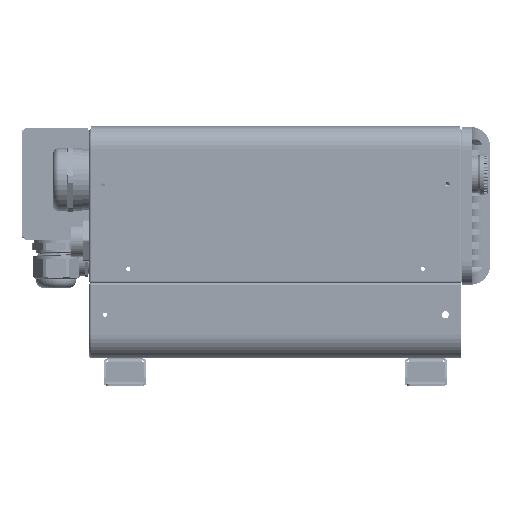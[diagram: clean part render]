
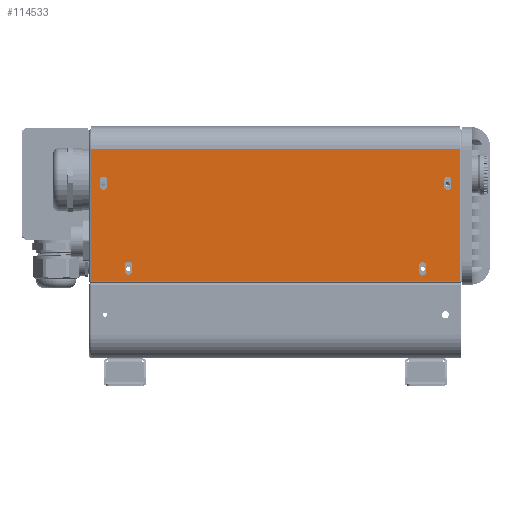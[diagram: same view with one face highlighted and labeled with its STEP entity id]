
A CAD part, left-side view. The second image highlights one B-rep face of the part: STEP entity #114533.
In plain terms, the highlighted planar face has unit normal (-1, 0, 0).
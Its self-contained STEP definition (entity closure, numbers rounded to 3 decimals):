
#53881=LINE('',#587520,#91146);
#53889=LINE('',#587547,#91154);
#53897=LINE('',#587568,#91162);
#53905=LINE('',#587595,#91170);
#53913=LINE('',#587616,#91178);
#53921=LINE('',#587643,#91186);
#53932=LINE('',#587673,#91197);
#53941=LINE('',#587699,#91206);
#53942=LINE('',#587704,#91207);
#53943=LINE('',#587707,#91208);
#53944=LINE('',#587709,#91209);
#53945=LINE('',#587711,#91210);
#91146=VECTOR('',#457843,1.);
#91154=VECTOR('',#457873,1.);
#91162=VECTOR('',#457891,1.);
#91170=VECTOR('',#457921,1.);
#91178=VECTOR('',#457939,1.);
#91186=VECTOR('',#457969,1.);
#91197=VECTOR('',#457992,1.);
#91206=VECTOR('',#458013,1.);
#91207=VECTOR('',#458016,1.);
#91208=VECTOR('',#458019,1.);
#91209=VECTOR('',#458020,1.);
#91210=VECTOR('',#458021,1.);
#114533=ADVANCED_FACE('',(#134917,#134918,#134919,#134920,#134921),#127866,
 .T.);
#127866=PLANE('',#378596);
#134917=FACE_BOUND('',#150061,.T.);
#134918=FACE_BOUND('',#150062,.T.);
#134919=FACE_BOUND('',#150063,.T.);
#134920=FACE_BOUND('',#150064,.T.);
#134921=FACE_BOUND('',#150065,.T.);
#150061=EDGE_LOOP('',(#230598,#230599,#230600,#230601));
#150062=EDGE_LOOP('',(#230602,#230603,#230604,#230605));
#150063=EDGE_LOOP('',(#230606,#230607,#230608,#230609));
#150064=EDGE_LOOP('',(#230610,#230611,#230612,#230613));
#150065=EDGE_LOOP('',(#230614,#230615,#230616,#230617));
#230598=ORIENTED_EDGE('',*,*,#330418,.F.);
#230599=ORIENTED_EDGE('',*,*,#330425,.F.);
#230600=ORIENTED_EDGE('',*,*,#330432,.F.);
#230601=ORIENTED_EDGE('',*,*,#330414,.F.);
#230602=ORIENTED_EDGE('',*,*,#330442,.F.);
#230603=ORIENTED_EDGE('',*,*,#330449,.F.);
#230604=ORIENTED_EDGE('',*,*,#330456,.F.);
#230605=ORIENTED_EDGE('',*,*,#330438,.F.);
#230606=ORIENTED_EDGE('',*,*,#330466,.F.);
#230607=ORIENTED_EDGE('',*,*,#330473,.F.);
#230608=ORIENTED_EDGE('',*,*,#330480,.F.);
#230609=ORIENTED_EDGE('',*,*,#330462,.F.);
#230610=ORIENTED_EDGE('',*,*,#330508,.F.);
#230611=ORIENTED_EDGE('',*,*,#330509,.F.);
#230612=ORIENTED_EDGE('',*,*,#330510,.F.);
#230613=ORIENTED_EDGE('',*,*,#330511,.F.);
#230614=ORIENTED_EDGE('',*,*,#330495,.F.);
#230615=ORIENTED_EDGE('',*,*,#330512,.F.);
#230616=ORIENTED_EDGE('',*,*,#330513,.T.);
#230617=ORIENTED_EDGE('',*,*,#330514,.F.);
#283645=VERTEX_POINT('',#587512);
#283646=VERTEX_POINT('',#587513);
#283649=VERTEX_POINT('',#587521);
#283655=VERTEX_POINT('',#587536);
#283661=VERTEX_POINT('',#587560);
#283662=VERTEX_POINT('',#587561);
#283665=VERTEX_POINT('',#587569);
#283671=VERTEX_POINT('',#587584);
#283677=VERTEX_POINT('',#587608);
#283678=VERTEX_POINT('',#587609);
#283681=VERTEX_POINT('',#587617);
#283687=VERTEX_POINT('',#587632);
#283701=VERTEX_POINT('',#587672);
#283702=VERTEX_POINT('',#587674);
#283713=VERTEX_POINT('',#587700);
#283714=VERTEX_POINT('',#587701);
#283715=VERTEX_POINT('',#587703);
#283716=VERTEX_POINT('',#587705);
#283717=VERTEX_POINT('',#587708);
#283718=VERTEX_POINT('',#587710);
#330414=EDGE_CURVE('',#283645,#283646,#353695,.T.);
#330418=EDGE_CURVE('',#283649,#283645,#53881,.T.);
#330425=EDGE_CURVE('',#283655,#283649,#353697,.T.);
#330432=EDGE_CURVE('',#283646,#283655,#53889,.T.);
#330438=EDGE_CURVE('',#283661,#283662,#353703,.T.);
#330442=EDGE_CURVE('',#283665,#283661,#53897,.T.);
#330449=EDGE_CURVE('',#283671,#283665,#353705,.T.);
#330456=EDGE_CURVE('',#283662,#283671,#53905,.T.);
#330462=EDGE_CURVE('',#283677,#283678,#353711,.T.);
#330466=EDGE_CURVE('',#283681,#283677,#53913,.T.);
#330473=EDGE_CURVE('',#283687,#283681,#353713,.T.);
#330480=EDGE_CURVE('',#283678,#283687,#53921,.T.);
#330495=EDGE_CURVE('',#283701,#283702,#53932,.T.);
#330508=EDGE_CURVE('',#283713,#283714,#53941,.T.);
#330509=EDGE_CURVE('',#283715,#283713,#353727,.T.);
#330510=EDGE_CURVE('',#283716,#283715,#53942,.T.);
#330511=EDGE_CURVE('',#283714,#283716,#353728,.T.);
#330512=EDGE_CURVE('',#283717,#283701,#53943,.T.);
#330513=EDGE_CURVE('',#283717,#283718,#53944,.T.);
#330514=EDGE_CURVE('',#283702,#283718,#53945,.T.);
#353695=CIRCLE('',#378536,2.75);
#353697=CIRCLE('',#378541,2.75);
#353703=CIRCLE('',#378552,2.75);
#353705=CIRCLE('',#378557,2.75);
#353711=CIRCLE('',#378568,2.75);
#353713=CIRCLE('',#378573,2.75);
#353727=CIRCLE('',#378594,2.75);
#353728=CIRCLE('',#378595,2.75);
#378536=AXIS2_PLACEMENT_3D('',#587511,#457835,#457836);
#378541=AXIS2_PLACEMENT_3D('',#587535,#457854,#457855);
#378552=AXIS2_PLACEMENT_3D('',#587559,#457883,#457884);
#378557=AXIS2_PLACEMENT_3D('',#587583,#457902,#457903);
#378568=AXIS2_PLACEMENT_3D('',#587607,#457931,#457932);
#378573=AXIS2_PLACEMENT_3D('',#587631,#457950,#457951);
#378594=AXIS2_PLACEMENT_3D('',#587702,#458014,#458015);
#378595=AXIS2_PLACEMENT_3D('',#587706,#458017,#458018);
#378596=AXIS2_PLACEMENT_3D('',#587712,#458022,#458023);
#457835=DIRECTION('',(-1.,0.,0.));
#457836=DIRECTION('',(0.,0.,1.));
#457843=DIRECTION('',(0.,0.,1.));
#457854=DIRECTION('',(-1.,0.,0.));
#457855=DIRECTION('',(0.,0.,1.));
#457873=DIRECTION('',(0.,0.,-1.));
#457883=DIRECTION('',(-1.,0.,0.));
#457884=DIRECTION('',(0.,0.,1.));
#457891=DIRECTION('',(0.,0.,1.));
#457902=DIRECTION('',(-1.,0.,0.));
#457903=DIRECTION('',(0.,0.,1.));
#457921=DIRECTION('',(0.,0.,-1.));
#457931=DIRECTION('',(-1.,0.,0.));
#457932=DIRECTION('',(0.,0.,1.));
#457939=DIRECTION('',(0.,0.,1.));
#457950=DIRECTION('',(-1.,0.,0.));
#457951=DIRECTION('',(0.,0.,1.));
#457969=DIRECTION('',(0.,0.,-1.));
#457992=DIRECTION('',(0.,0.,1.));
#458013=DIRECTION('',(0.,0.,1.));
#458014=DIRECTION('',(-1.,0.,0.));
#458015=DIRECTION('',(0.,0.,1.));
#458016=DIRECTION('',(0.,0.,-1.));
#458017=DIRECTION('',(-1.,0.,0.));
#458018=DIRECTION('',(0.,0.,1.));
#458019=DIRECTION('',(0.,1.,0.));
#458020=DIRECTION('',(0.,0.,1.));
#458021=DIRECTION('',(0.,-1.,0.));
#458022=DIRECTION('',(-1.,0.,0.));
#458023=DIRECTION('',(0.,0.,-1.));
#587511=CARTESIAN_POINT('',(-170.6,140.249,-148.8));
#587512=CARTESIAN_POINT('',(-170.6,137.499,-148.8));
#587513=CARTESIAN_POINT('',(-170.6,142.999,-148.8));
#587520=CARTESIAN_POINT('',(-170.6,137.499,-165.6));
#587521=CARTESIAN_POINT('',(-170.6,137.499,-153.8));
#587535=CARTESIAN_POINT('',(-170.6,140.249,-153.8));
#587536=CARTESIAN_POINT('',(-170.6,142.999,-153.8));
#587547=CARTESIAN_POINT('',(-170.6,142.999,-165.6));
#587559=CARTESIAN_POINT('',(-170.6,120.684,-81.7));
#587560=CARTESIAN_POINT('',(-170.6,117.934,-81.7));
#587561=CARTESIAN_POINT('',(-170.6,123.434,-81.7));
#587568=CARTESIAN_POINT('',(-170.6,117.934,-145.6));
#587569=CARTESIAN_POINT('',(-170.6,117.934,-86.7));
#587583=CARTESIAN_POINT('',(-170.6,120.684,-86.7));
#587584=CARTESIAN_POINT('',(-170.6,123.434,-86.7));
#587595=CARTESIAN_POINT('',(-170.6,123.434,-145.6));
#587607=CARTESIAN_POINT('',(-170.6,390.782,-81.7));
#587608=CARTESIAN_POINT('',(-170.6,388.032,-81.7));
#587609=CARTESIAN_POINT('',(-170.6,393.532,-81.7));
#587616=CARTESIAN_POINT('',(-170.6,388.032,-145.6));
#587617=CARTESIAN_POINT('',(-170.6,388.032,-86.7));
#587631=CARTESIAN_POINT('',(-170.6,390.782,-86.7));
#587632=CARTESIAN_POINT('',(-170.6,393.532,-86.7));
#587643=CARTESIAN_POINT('',(-170.6,393.532,-145.6));
#587672=CARTESIAN_POINT('',(-170.6,400.282,-160.8));
#587673=CARTESIAN_POINT('',(-170.6,400.282,-165.6));
#587674=CARTESIAN_POINT('',(-170.6,400.282,-57.4));
#587699=CARTESIAN_POINT('',(-170.6,368.483,-165.6));
#587700=CARTESIAN_POINT('',(-170.6,368.483,-153.3));
#587701=CARTESIAN_POINT('',(-170.6,368.483,-148.3));
#587702=CARTESIAN_POINT('',(-170.6,371.233,-153.3));
#587703=CARTESIAN_POINT('',(-170.6,373.983,-153.3));
#587704=CARTESIAN_POINT('',(-170.6,373.983,-165.6));
#587705=CARTESIAN_POINT('',(-170.6,373.983,-148.3));
#587706=CARTESIAN_POINT('',(-170.6,371.233,-148.3));
#587707=CARTESIAN_POINT('',(-170.6,130.284,-160.8));
#587708=CARTESIAN_POINT('',(-170.6,111.184,-160.8));
#587709=CARTESIAN_POINT('',(-170.6,111.184,-60.));
#587710=CARTESIAN_POINT('',(-170.6,111.184,-57.4));
#587711=CARTESIAN_POINT('',(-170.6,341.284,-57.4));
#587712=CARTESIAN_POINT('',(-170.6,130.284,-165.6));
